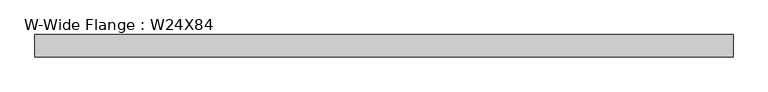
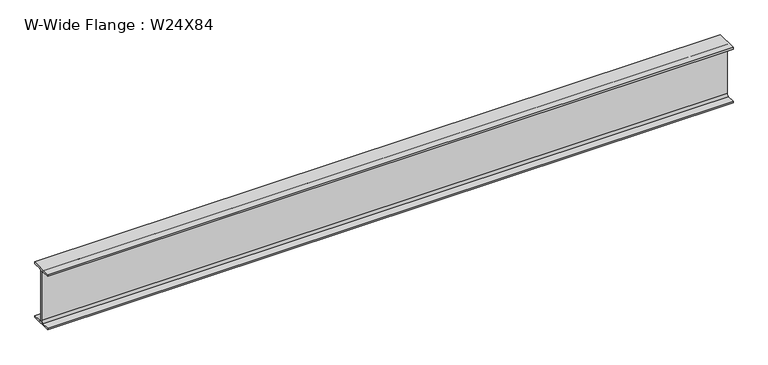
"""IFC4 building model written with IfcOpenShell, lengths in millimetres: beam geometry, W-Wide Flange : W24X84."""

from ifc_helpers import new_model, si_unit, point, frame, frame_2d, origin, place, context, project, spatial, polyline, circle_curve, trimmed, segment, composite_curve, outline, extrude, source, transform, mapped, element, save


def w_wide_flange_w24x84_e470d529(model_context):
    return source(origin(), model_context, "Body", "SweptSolid", [
        extrude(outline(composite_curve([segment(polyline([(114.554, -286.512), (114.554, -306.07), (-114.554, -306.07), (-114.554, -286.512), (-29.2735, -286.512)]), True, "CONTINUOUS"), segment(trimmed(circle_curve(frame_2d((-29.2735, -263.2075)), 23.3045), [point((-29.2735, -286.512))], [point((-5.969, -263.2075))], True, "CARTESIAN"), True, "CONTINUOUS"), segment(polyline([(-5.969, -263.2075), (-5.969, 263.2075)]), True, "CONTINUOUS"), segment(trimmed(circle_curve(frame_2d((-29.2735, 263.2075)), 23.3045), [point((-5.969, 263.2075))], [point((-29.2735, 286.512))], True, "CARTESIAN"), True, "CONTINUOUS"), segment(polyline([(-29.2735, 286.512), (-114.554, 286.512), (-114.554, 306.07), (114.554, 306.07), (114.554, 286.512), (29.2735, 286.512)]), True, "CONTINUOUS"), segment(trimmed(circle_curve(frame_2d((29.2735, 263.2075)), 23.3045), [point((29.2735, 286.512))], [point((5.969, 263.2075))], True, "CARTESIAN"), True, "CONTINUOUS"), segment(polyline([(5.969, 263.2075), (5.969, -263.2075)]), True, "CONTINUOUS"), segment(trimmed(circle_curve(frame_2d((29.2735, -263.2075)), 23.3045), [point((5.969, -263.2075))], [point((29.2735, -286.512))], True, "CARTESIAN"), True, "CONTINUOUS"), segment(polyline([(29.2735, -286.512), (114.554, -286.512)]), True, "CONTINUOUS")], self_intersect=False)), frame((-3510.7066406, 0.0, 0.0), z_axis=(1.0, 0.0, 0.0), x_axis=(0.0, 1.0, 0.0)), (0.0, 0.0, 1.0), 7156.3507813),
    ])


if __name__ == "__main__":
    model = new_model("IFC4")
    model_context = context("Model", 3, world=origin())
    ifc_project = project(units=[si_unit("LENGTHUNIT", "METRE", prefix="MILLI")], contexts=[model_context])
    site = spatial("IfcSite", under=ifc_project)
    building = spatial("IfcBuilding", under=site)
    placement = place(None, origin())
    w_wide_flange_w24x84_shape = w_wide_flange_w24x84_e470d529(model_context)
    element("IfcBeam", 1, ObjectType="W-Wide Flange : W24X84", at=placement, inside=building, context=model_context, shape_type="MappedRepresentation", body=[
        mapped(w_wide_flange_w24x84_shape, transform((0.0, 0.0, 0.0), x_axis=(1.0, 0.0, 0.0), y_axis=(0.0, 1.0, 0.0), z_axis=(0.0, 0.0, 1.0))),
    ])
    save(model, "model.ifc")
